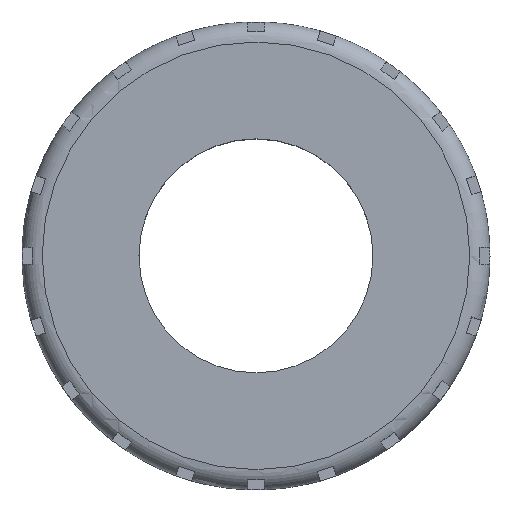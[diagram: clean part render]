
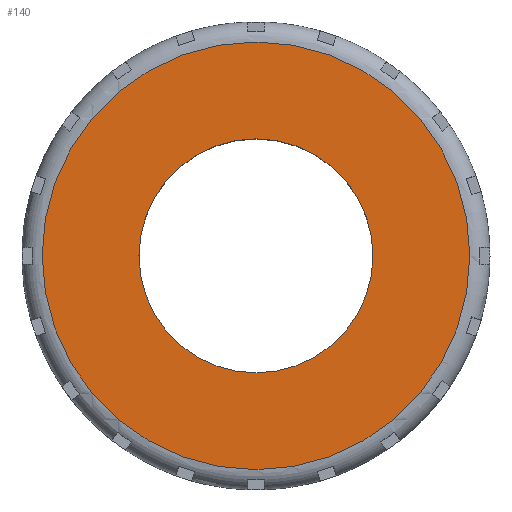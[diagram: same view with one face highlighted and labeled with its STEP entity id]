
A CAD part, top view. The second image highlights one B-rep face of the part: STEP entity #140.
In plain terms, the highlighted planar face has unit normal (0, 0, 1).
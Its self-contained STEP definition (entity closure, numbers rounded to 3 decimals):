
#31 = CYLINDRICAL_SURFACE('',#32,2.9);
#32 = AXIS2_PLACEMENT_3D('',#33,#34,#35);
#33 = CARTESIAN_POINT('',(0.,0.,2.2));
#34 = DIRECTION('',(0.,0.,1.));
#35 = DIRECTION('',(1.,0.,-0.));
#56 = VERTEX_POINT('',#57);
#57 = CARTESIAN_POINT('',(2.9,0.,4.1));
#78 = EDGE_CURVE('',#56,#56,#79,.T.);
#79 = SURFACE_CURVE('',#80,(#85,#92),.PCURVE_S1.);
#80 = CIRCLE('',#81,2.9);
#81 = AXIS2_PLACEMENT_3D('',#82,#83,#84);
#82 = CARTESIAN_POINT('',(0.,0.,4.1));
#83 = DIRECTION('',(0.,0.,1.));
#84 = DIRECTION('',(1.,0.,-0.));
#85 = PCURVE('',#31,#86);
#86 = DEFINITIONAL_REPRESENTATION('',(#87),#91);
#87 = LINE('',#88,#89);
#88 = CARTESIAN_POINT('',(0.,1.9));
#89 = VECTOR('',#90,1.);
#90 = DIRECTION('',(1.,0.));
#91 = ( GEOMETRIC_REPRESENTATION_CONTEXT(2) 
PARAMETRIC_REPRESENTATION_CONTEXT() REPRESENTATION_CONTEXT('2D SPACE',''
  ) );
#92 = PCURVE('',#93,#98);
#93 = PLANE('',#94);
#94 = AXIS2_PLACEMENT_3D('',#95,#96,#97);
#95 = CARTESIAN_POINT('',(0.,0.,4.1));
#96 = DIRECTION('',(0.,0.,1.));
#97 = DIRECTION('',(1.,0.,-0.));
#98 = DEFINITIONAL_REPRESENTATION('',(#99),#103);
#99 = CIRCLE('',#100,2.9);
#100 = AXIS2_PLACEMENT_2D('',#101,#102);
#101 = CARTESIAN_POINT('',(0.,0.));
#102 = DIRECTION('',(1.,-0.));
#103 = ( GEOMETRIC_REPRESENTATION_CONTEXT(2) 
PARAMETRIC_REPRESENTATION_CONTEXT() REPRESENTATION_CONTEXT('2D SPACE',''
  ) );
#140 = ADVANCED_FACE('',(#141,#144),#93,.T.);
#141 = FACE_BOUND('',#142,.F.);
#142 = EDGE_LOOP('',(#143));
#143 = ORIENTED_EDGE('',*,*,#78,.T.);
#144 = FACE_BOUND('',#145,.F.);
#145 = EDGE_LOOP('',(#146));
#146 = ORIENTED_EDGE('',*,*,#147,.F.);
#147 = EDGE_CURVE('',#148,#148,#150,.T.);
#148 = VERTEX_POINT('',#149);
#149 = CARTESIAN_POINT('',(5.3,0.,4.1));
#150 = SURFACE_CURVE('',#151,(#156,#163),.PCURVE_S1.);
#151 = CIRCLE('',#152,5.3);
#152 = AXIS2_PLACEMENT_3D('',#153,#154,#155);
#153 = CARTESIAN_POINT('',(0.,0.,4.1));
#154 = DIRECTION('',(0.,0.,1.));
#155 = DIRECTION('',(1.,0.,-0.));
#156 = PCURVE('',#93,#157);
#157 = DEFINITIONAL_REPRESENTATION('',(#158),#162);
#158 = CIRCLE('',#159,5.3);
#159 = AXIS2_PLACEMENT_2D('',#160,#161);
#160 = CARTESIAN_POINT('',(0.,0.));
#161 = DIRECTION('',(1.,-0.));
#162 = ( GEOMETRIC_REPRESENTATION_CONTEXT(2) 
PARAMETRIC_REPRESENTATION_CONTEXT() REPRESENTATION_CONTEXT('2D SPACE',''
  ) );
#163 = PCURVE('',#164,#169);
#164 = TOROIDAL_SURFACE('',#165,5.3,0.5);
#165 = AXIS2_PLACEMENT_3D('',#166,#167,#168);
#166 = CARTESIAN_POINT('',(0.,0.,3.6));
#167 = DIRECTION('',(-0.,-0.,-1.));
#168 = DIRECTION('',(1.,0.,-0.));
#169 = DEFINITIONAL_REPRESENTATION('',(#170),#174);
#170 = LINE('',#171,#172);
#171 = CARTESIAN_POINT('',(-0.,4.712));
#172 = VECTOR('',#173,1.);
#173 = DIRECTION('',(-1.,0.));
#174 = ( GEOMETRIC_REPRESENTATION_CONTEXT(2) 
PARAMETRIC_REPRESENTATION_CONTEXT() REPRESENTATION_CONTEXT('2D SPACE',''
  ) );
